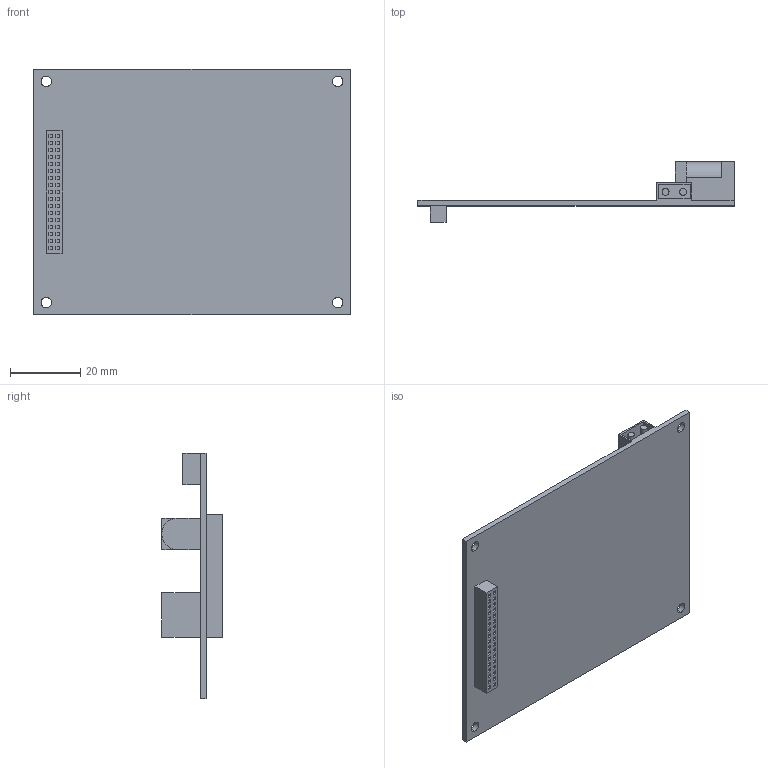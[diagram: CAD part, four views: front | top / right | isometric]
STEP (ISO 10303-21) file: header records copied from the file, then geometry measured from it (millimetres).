
FILE_DESCRIPTION (( 'STEP AP203' ), '1' );
FILE_NAME ('MSA USB GUI adopting PCB.STEP', '2024-05-17T19:18:28', ( '' ), ( '' ), 'SwSTEP 2.0', 'SolidWorks 2018', '' );
FILE_SCHEMA (( 'CONFIG_CONTROL_DESIGN' ));
Length unit declared in the file: millimetre
Products named in the file (1): MSA USB GUI adopting PCB
Bounding box: 90 x 17.2 x 70 mm (x, y, z)
Volume: 13954 mm3; surface area: 15949.3 mm2
Topology: 1 solids, 1 shells, 233 faces, 566 edges, 377 vertices
Faces by surface type: plane 216, cylinder 17
Entity records: 6800 total; most frequent: CARTESIAN_POINT 1177, ORIENTED_EDGE 1132, DIRECTION 1069, EDGE_CURVE 566, LINE 531, VECTOR 531, VERTEX_POINT 377, EDGE_LOOP 283
